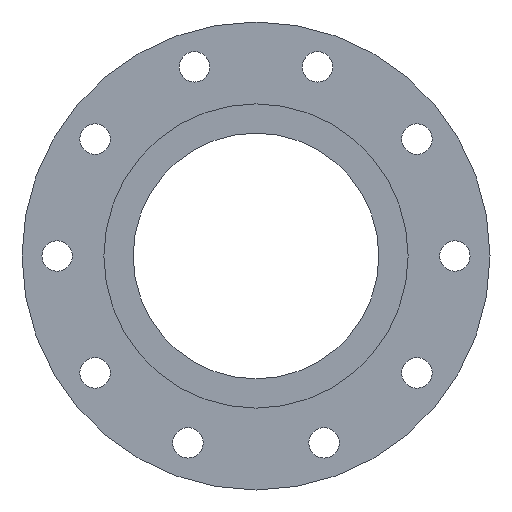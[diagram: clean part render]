
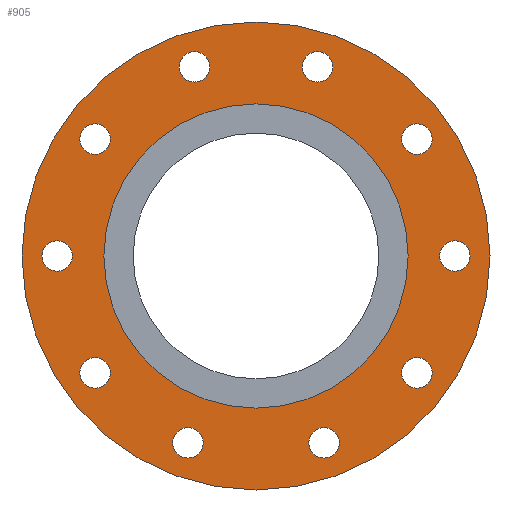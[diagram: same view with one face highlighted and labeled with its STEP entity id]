
A CAD part, left-side view. The second image highlights one B-rep face of the part: STEP entity #905.
In plain terms, the highlighted planar face has unit normal (-1, 0, 0).
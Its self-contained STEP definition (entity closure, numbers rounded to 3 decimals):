
#399=CARTESIAN_POINT('',(-33.0,0.0,-200.));
#400=VERTEX_POINT('',#399);
#401=CARTESIAN_POINT('',(-33.0,0.0,0.0));
#402=DIRECTION('',(1.0,0.0,0.0));
#403=DIRECTION('',(0.0,0.0,-1.0));
#404=AXIS2_PLACEMENT_3D('',#401,#402,#403);
#405=CIRCLE('',#404,200.);
#406=EDGE_CURVE('',#400,#400,#405,.T.);
#440=CARTESIAN_POINT('',(-33.0,-137.533,-86.923));
#441=VERTEX_POINT('',#440);
#442=CARTESIAN_POINT('',(-33.0,-137.533,-99.923));
#443=DIRECTION('',(1.0,0.0,0.0));
#444=DIRECTION('',(0.0,0.0,-1.0));
#445=AXIS2_PLACEMENT_3D('',#442,#443,#444);
#446=CIRCLE('',#445,13.0);
#447=EDGE_CURVE('',#441,#441,#446,.T.);
#481=CARTESIAN_POINT('',(-33.0,-170.0,13.));
#482=VERTEX_POINT('',#481);
#483=CARTESIAN_POINT('',(-33.0,-170.0,0.));
#484=DIRECTION('',(1.0,0.0,0.0));
#485=DIRECTION('',(0.0,0.0,-1.0));
#486=AXIS2_PLACEMENT_3D('',#483,#484,#485);
#487=CIRCLE('',#486,13.0);
#488=EDGE_CURVE('',#482,#482,#487,.T.);
#522=CARTESIAN_POINT('',(-33.0,58.143,-146.748));
#523=VERTEX_POINT('',#522);
#524=CARTESIAN_POINT('',(-33.0,58.143,-159.748));
#525=DIRECTION('',(1.0,0.0,0.0));
#526=DIRECTION('',(0.0,0.0,-1.0));
#527=AXIS2_PLACEMENT_3D('',#524,#525,#526);
#528=CIRCLE('',#527,13.0);
#529=EDGE_CURVE('',#523,#523,#528,.T.);
#563=CARTESIAN_POINT('',(-33.0,137.533,-86.923));
#564=VERTEX_POINT('',#563);
#565=CARTESIAN_POINT('',(-33.0,137.533,-99.923));
#566=DIRECTION('',(1.0,0.0,0.0));
#567=DIRECTION('',(0.0,0.0,-1.0));
#568=AXIS2_PLACEMENT_3D('',#565,#566,#567);
#569=CIRCLE('',#568,13.0);
#570=EDGE_CURVE('',#564,#564,#569,.T.);
#604=CARTESIAN_POINT('',(-33.0,-137.533,112.923));
#605=VERTEX_POINT('',#604);
#606=CARTESIAN_POINT('',(-33.0,-137.533,99.923));
#607=DIRECTION('',(1.0,0.0,0.0));
#608=DIRECTION('',(0.0,0.0,-1.0));
#609=AXIS2_PLACEMENT_3D('',#606,#607,#608);
#610=CIRCLE('',#609,13.0);
#611=EDGE_CURVE('',#605,#605,#610,.T.);
#645=CARTESIAN_POINT('',(-33.0,137.533,112.923));
#646=VERTEX_POINT('',#645);
#647=CARTESIAN_POINT('',(-33.0,137.533,99.923));
#648=DIRECTION('',(1.0,0.0,0.0));
#649=DIRECTION('',(0.0,0.0,-1.0));
#650=AXIS2_PLACEMENT_3D('',#647,#648,#649);
#651=CIRCLE('',#650,13.0);
#652=EDGE_CURVE('',#646,#646,#651,.T.);
#686=CARTESIAN_POINT('',(-33.0,-58.143,-146.748));
#687=VERTEX_POINT('',#686);
#688=CARTESIAN_POINT('',(-33.0,-58.143,-159.748));
#689=DIRECTION('',(1.0,0.0,0.0));
#690=DIRECTION('',(0.0,0.0,-1.0));
#691=AXIS2_PLACEMENT_3D('',#688,#689,#690);
#692=CIRCLE('',#691,13.0);
#693=EDGE_CURVE('',#687,#687,#692,.T.);
#727=CARTESIAN_POINT('',(-33.0,170.0,13.));
#728=VERTEX_POINT('',#727);
#729=CARTESIAN_POINT('',(-33.0,170.0,0.));
#730=DIRECTION('',(1.0,0.0,0.0));
#731=DIRECTION('',(0.0,0.0,-1.0));
#732=AXIS2_PLACEMENT_3D('',#729,#730,#731);
#733=CIRCLE('',#732,13.0);
#734=EDGE_CURVE('',#728,#728,#733,.T.);
#768=CARTESIAN_POINT('',(-33.0,52.533,174.68));
#769=VERTEX_POINT('',#768);
#770=CARTESIAN_POINT('',(-33.0,52.533,161.68));
#771=DIRECTION('',(1.0,0.0,0.0));
#772=DIRECTION('',(0.0,0.0,-1.0));
#773=AXIS2_PLACEMENT_3D('',#770,#771,#772);
#774=CIRCLE('',#773,13.0);
#775=EDGE_CURVE('',#769,#769,#774,.T.);
#809=CARTESIAN_POINT('',(-33.0,-52.533,174.68));
#810=VERTEX_POINT('',#809);
#811=CARTESIAN_POINT('',(-33.0,-52.533,161.68));
#812=DIRECTION('',(1.0,0.0,0.0));
#813=DIRECTION('',(0.0,0.0,-1.0));
#814=AXIS2_PLACEMENT_3D('',#811,#812,#813);
#815=CIRCLE('',#814,13.0);
#816=EDGE_CURVE('',#810,#810,#815,.T.);
#849=CARTESIAN_POINT('',(-33.0,0.0,-130.0));
#850=VERTEX_POINT('',#849);
#851=CARTESIAN_POINT('',(-33.0,0.0,0.0));
#852=DIRECTION('',(1.0,0.0,0.0));
#853=DIRECTION('',(0.0,0.0,-1.0));
#854=AXIS2_PLACEMENT_3D('',#851,#852,#853);
#855=CIRCLE('',#854,130.0);
#856=EDGE_CURVE('',#850,#850,#855,.T.);
#864=CARTESIAN_POINT('',(-33.0,0.0,-165.0));
#865=DIRECTION('',(-1.0,0.0,0.0));
#866=DIRECTION('',(0.0,0.0,1.0));
#867=AXIS2_PLACEMENT_3D('',#864,#865,#866);
#868=PLANE('',#867);
#869=ORIENTED_EDGE('',*,*,#406,.F.);
#870=EDGE_LOOP('',(#869));
#871=FACE_OUTER_BOUND('',#870,.T.);
#872=ORIENTED_EDGE('',*,*,#447,.T.);
#873=EDGE_LOOP('',(#872));
#874=FACE_BOUND('',#873,.T.);
#875=ORIENTED_EDGE('',*,*,#488,.T.);
#876=EDGE_LOOP('',(#875));
#877=FACE_BOUND('',#876,.T.);
#878=ORIENTED_EDGE('',*,*,#529,.T.);
#879=EDGE_LOOP('',(#878));
#880=FACE_BOUND('',#879,.T.);
#881=ORIENTED_EDGE('',*,*,#570,.T.);
#882=EDGE_LOOP('',(#881));
#883=FACE_BOUND('',#882,.T.);
#884=ORIENTED_EDGE('',*,*,#611,.T.);
#885=EDGE_LOOP('',(#884));
#886=FACE_BOUND('',#885,.T.);
#887=ORIENTED_EDGE('',*,*,#652,.T.);
#888=EDGE_LOOP('',(#887));
#889=FACE_BOUND('',#888,.T.);
#890=ORIENTED_EDGE('',*,*,#693,.T.);
#891=EDGE_LOOP('',(#890));
#892=FACE_BOUND('',#891,.T.);
#893=ORIENTED_EDGE('',*,*,#734,.T.);
#894=EDGE_LOOP('',(#893));
#895=FACE_BOUND('',#894,.T.);
#896=ORIENTED_EDGE('',*,*,#775,.T.);
#897=EDGE_LOOP('',(#896));
#898=FACE_BOUND('',#897,.T.);
#899=ORIENTED_EDGE('',*,*,#816,.T.);
#900=EDGE_LOOP('',(#899));
#901=FACE_BOUND('',#900,.T.);
#902=ORIENTED_EDGE('',*,*,#856,.T.);
#903=EDGE_LOOP('',(#902));
#904=FACE_BOUND('',#903,.T.);
#905=ADVANCED_FACE('',(#871,#874,#877,#880,#883,#886,#889,#892,#895,#898,#901,#904),#868,.T.);
